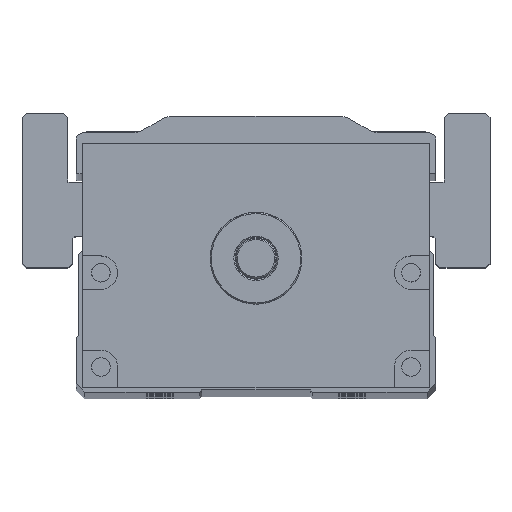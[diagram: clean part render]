
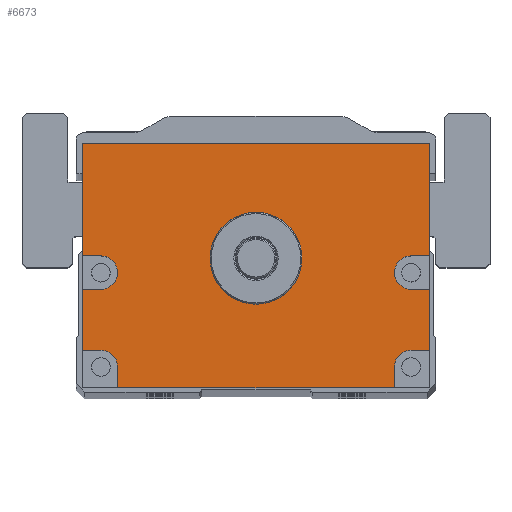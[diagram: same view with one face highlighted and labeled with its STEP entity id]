
A CAD part, top view. The second image highlights one B-rep face of the part: STEP entity #6673.
In plain terms, the highlighted planar face has unit normal (0, 0, 1).
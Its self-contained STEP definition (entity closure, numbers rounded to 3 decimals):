
#3590=PLANE('',#16367);
#4731=LINE('',#23505,#5590);
#4733=LINE('',#23513,#5592);
#4734=LINE('',#23516,#5593);
#4735=LINE('',#23518,#5594);
#4736=LINE('',#23522,#5595);
#4737=LINE('',#23524,#5596);
#4738=LINE('',#23525,#5597);
#4739=LINE('',#23527,#5598);
#4740=LINE('',#23531,#5599);
#4741=LINE('',#23533,#5600);
#4742=LINE('',#23535,#5601);
#4743=LINE('',#23539,#5602);
#4744=LINE('',#23541,#5603);
#4745=LINE('',#23543,#5604);
#5590=VECTOR('',#18829,1.);
#5592=VECTOR('',#18837,1.);
#5593=VECTOR('',#18838,1.);
#5594=VECTOR('',#18839,1.);
#5595=VECTOR('',#18842,1.);
#5596=VECTOR('',#18843,1.);
#5597=VECTOR('',#18844,1.);
#5598=VECTOR('',#18845,1.);
#5599=VECTOR('',#18848,1.);
#5600=VECTOR('',#18849,1.);
#5601=VECTOR('',#18850,1.);
#5602=VECTOR('',#18853,1.);
#5603=VECTOR('',#18854,1.);
#5604=VECTOR('',#18855,1.);
#6673=ADVANCED_FACE('',(#7432,#7433),#3590,.T.);
#7432=FACE_BOUND('',#8321,.T.);
#7433=FACE_BOUND('',#8322,.T.);
#8321=EDGE_LOOP('',(#10748,#10749,#10750,#10751,#10752,#10753,#10754,#10755,
#10756,#10757,#10758,#10759,#10760,#10761,#10762,#10763,#10764,#10765));
#8322=EDGE_LOOP('',(#10766));
#10748=ORIENTED_EDGE('',*,*,#14406,.F.);
#10749=ORIENTED_EDGE('',*,*,#14407,.T.);
#10750=ORIENTED_EDGE('',*,*,#14408,.F.);
#10751=ORIENTED_EDGE('',*,*,#14409,.F.);
#10752=ORIENTED_EDGE('',*,*,#14410,.F.);
#10753=ORIENTED_EDGE('',*,*,#14411,.T.);
#10754=ORIENTED_EDGE('',*,*,#14402,.T.);
#10755=ORIENTED_EDGE('',*,*,#14412,.T.);
#10756=ORIENTED_EDGE('',*,*,#14413,.F.);
#10757=ORIENTED_EDGE('',*,*,#14414,.F.);
#10758=ORIENTED_EDGE('',*,*,#14415,.F.);
#10759=ORIENTED_EDGE('',*,*,#14416,.T.);
#10760=ORIENTED_EDGE('',*,*,#14417,.F.);
#10761=ORIENTED_EDGE('',*,*,#14418,.F.);
#10762=ORIENTED_EDGE('',*,*,#14419,.F.);
#10763=ORIENTED_EDGE('',*,*,#14420,.T.);
#10764=ORIENTED_EDGE('',*,*,#14421,.F.);
#10765=ORIENTED_EDGE('',*,*,#14422,.F.);
#10766=ORIENTED_EDGE('',*,*,#14388,.T.);
#12888=VERTEX_POINT('',#23476);
#12901=VERTEX_POINT('',#23504);
#12902=VERTEX_POINT('',#23506);
#12905=VERTEX_POINT('',#23514);
#12906=VERTEX_POINT('',#23515);
#12907=VERTEX_POINT('',#23517);
#12908=VERTEX_POINT('',#23519);
#12909=VERTEX_POINT('',#23521);
#12910=VERTEX_POINT('',#23523);
#12911=VERTEX_POINT('',#23526);
#12912=VERTEX_POINT('',#23528);
#12913=VERTEX_POINT('',#23530);
#12914=VERTEX_POINT('',#23532);
#12915=VERTEX_POINT('',#23534);
#12916=VERTEX_POINT('',#23536);
#12917=VERTEX_POINT('',#23538);
#12918=VERTEX_POINT('',#23540);
#12919=VERTEX_POINT('',#23542);
#12920=VERTEX_POINT('',#23544);
#14388=EDGE_CURVE('',#12888,#12888,#15406,.T.);
#14402=EDGE_CURVE('',#12902,#12901,#4731,.T.);
#14406=EDGE_CURVE('',#12905,#12906,#4733,.T.);
#14407=EDGE_CURVE('',#12905,#12907,#4734,.T.);
#14408=EDGE_CURVE('',#12908,#12907,#4735,.T.);
#14409=EDGE_CURVE('',#12909,#12908,#15417,.T.);
#14410=EDGE_CURVE('',#12910,#12909,#4736,.T.);
#14411=EDGE_CURVE('',#12910,#12902,#4737,.T.);
#14412=EDGE_CURVE('',#12901,#12911,#4738,.T.);
#14413=EDGE_CURVE('',#12912,#12911,#4739,.T.);
#14414=EDGE_CURVE('',#12913,#12912,#15418,.T.);
#14415=EDGE_CURVE('',#12914,#12913,#4740,.T.);
#14416=EDGE_CURVE('',#12914,#12915,#4741,.T.);
#14417=EDGE_CURVE('',#12916,#12915,#4742,.T.);
#14418=EDGE_CURVE('',#12917,#12916,#15419,.T.);
#14419=EDGE_CURVE('',#12918,#12917,#4743,.T.);
#14420=EDGE_CURVE('',#12918,#12919,#4744,.T.);
#14421=EDGE_CURVE('',#12920,#12919,#4745,.T.);
#14422=EDGE_CURVE('',#12906,#12920,#15420,.T.);
#15406=CIRCLE('',#16349,11.);
#15417=CIRCLE('',#16363,4.);
#15418=CIRCLE('',#16364,4.);
#15419=CIRCLE('',#16365,4.);
#15420=CIRCLE('',#16366,4.);
#16349=AXIS2_PLACEMENT_3D('',#23475,#18802,#18803);
#16363=AXIS2_PLACEMENT_3D('',#23520,#18840,#18841);
#16364=AXIS2_PLACEMENT_3D('',#23529,#18846,#18847);
#16365=AXIS2_PLACEMENT_3D('',#23537,#18851,#18852);
#16366=AXIS2_PLACEMENT_3D('',#23545,#18856,#18857);
#16367=AXIS2_PLACEMENT_3D('',#23546,#18858,#18859);
#18802=DIRECTION('',(0.,0.,-1.));
#18803=DIRECTION('',(1.,0.,0.));
#18829=DIRECTION('',(-1.,0.,0.));
#18837=DIRECTION('',(-1.,0.,0.));
#18838=DIRECTION('',(0.,1.,0.));
#18839=DIRECTION('',(1.,0.,0.));
#18840=DIRECTION('',(0.,0.,1.));
#18841=DIRECTION('',(1.,0.,0.));
#18842=DIRECTION('',(-1.,0.,0.));
#18843=DIRECTION('',(0.,1.,0.));
#18844=DIRECTION('',(0.,-1.,0.));
#18845=DIRECTION('',(-1.,0.,0.));
#18846=DIRECTION('',(0.,0.,1.));
#18847=DIRECTION('',(1.,0.,0.));
#18848=DIRECTION('',(1.,0.,0.));
#18849=DIRECTION('',(0.,-1.,0.));
#18850=DIRECTION('',(-1.,0.,0.));
#18851=DIRECTION('',(0.,0.,1.));
#18852=DIRECTION('',(1.,0.,0.));
#18853=DIRECTION('',(0.,1.,0.));
#18854=DIRECTION('',(1.,0.,0.));
#18855=DIRECTION('',(0.,-1.,0.));
#18856=DIRECTION('',(0.,0.,1.));
#18857=DIRECTION('',(1.,0.,0.));
#18858=DIRECTION('',(0.,0.,1.));
#18859=DIRECTION('',(1.,0.,0.));
#23475=CARTESIAN_POINT('',(0.,0.,782.5));
#23476=CARTESIAN_POINT('',(11.,0.,782.5));
#23504=CARTESIAN_POINT('',(-41.5,27.5,782.5));
#23505=CARTESIAN_POINT('',(41.5,27.5,782.5));
#23506=CARTESIAN_POINT('',(41.5,27.5,782.5));
#23513=CARTESIAN_POINT('',(41.5,-22.,782.5));
#23514=CARTESIAN_POINT('',(41.5,-22.,782.5));
#23515=CARTESIAN_POINT('',(37.115,-22.,782.5));
#23516=CARTESIAN_POINT('',(41.5,-31.,782.5));
#23517=CARTESIAN_POINT('',(41.5,-7.431,782.5));
#23518=CARTESIAN_POINT('',(41.5,-7.431,782.5));
#23519=CARTESIAN_POINT('',(37.115,-7.431,782.5));
#23520=CARTESIAN_POINT('',(37.115,-3.431,782.5));
#23521=CARTESIAN_POINT('',(37.115,0.569,782.5));
#23522=CARTESIAN_POINT('',(41.5,0.569,782.5));
#23523=CARTESIAN_POINT('',(41.5,0.569,782.5));
#23524=CARTESIAN_POINT('',(41.5,-31.,782.5));
#23525=CARTESIAN_POINT('',(-41.5,27.5,782.5));
#23526=CARTESIAN_POINT('',(-41.5,0.569,782.5));
#23527=CARTESIAN_POINT('',(41.5,0.569,782.5));
#23528=CARTESIAN_POINT('',(-37.115,0.569,782.5));
#23529=CARTESIAN_POINT('',(-37.115,-3.431,782.5));
#23530=CARTESIAN_POINT('',(-37.115,-7.431,782.5));
#23531=CARTESIAN_POINT('',(41.5,-7.431,782.5));
#23532=CARTESIAN_POINT('',(-41.5,-7.431,782.5));
#23533=CARTESIAN_POINT('',(-41.5,27.5,782.5));
#23534=CARTESIAN_POINT('',(-41.5,-22.,782.5));
#23535=CARTESIAN_POINT('',(41.5,-22.,782.5));
#23536=CARTESIAN_POINT('',(-37.115,-22.,782.5));
#23537=CARTESIAN_POINT('',(-37.115,-26.,782.5));
#23538=CARTESIAN_POINT('',(-33.115,-26.,782.5));
#23539=CARTESIAN_POINT('',(-33.115,-31.,782.5));
#23540=CARTESIAN_POINT('',(-33.115,-31.,782.5));
#23541=CARTESIAN_POINT('',(-41.5,-31.,782.5));
#23542=CARTESIAN_POINT('',(33.115,-31.,782.5));
#23543=CARTESIAN_POINT('',(33.115,-31.,782.5));
#23544=CARTESIAN_POINT('',(33.115,-26.,782.5));
#23545=CARTESIAN_POINT('',(37.115,-26.,782.5));
#23546=CARTESIAN_POINT('',(41.5,-31.,782.5));
